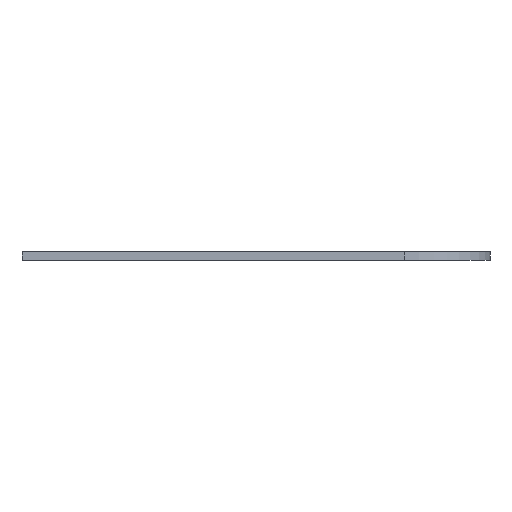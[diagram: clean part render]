
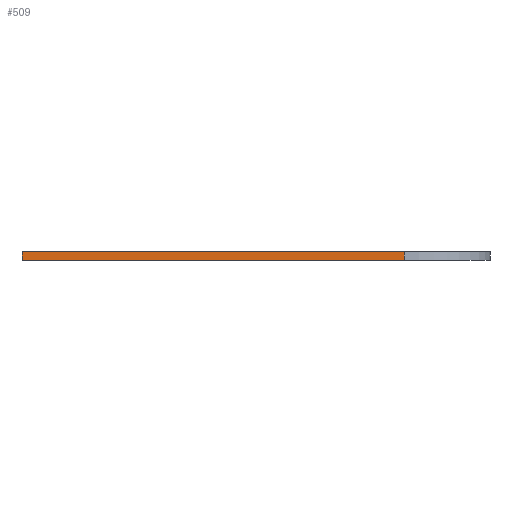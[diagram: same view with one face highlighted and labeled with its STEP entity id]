
A CAD part, front view. The second image highlights one B-rep face of the part: STEP entity #509.
In plain terms, the highlighted planar face has unit normal (0, -1, 0).
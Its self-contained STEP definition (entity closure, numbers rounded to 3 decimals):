
#56 = ORIENTED_EDGE ( 'NONE', *, *, #423, .T. ) ;
#94 = AXIS2_PLACEMENT_3D ( 'NONE', #831, #97, #899 ) ;
#97 = DIRECTION ( 'NONE',  ( 0., -1., 0. ) ) ;
#109 = CARTESIAN_POINT ( 'NONE',  ( 29.9, -26.9, -9.5 ) ) ;
#246 = LINE ( 'NONE', #1072, #823 ) ;
#282 = VERTEX_POINT ( 'NONE', #299 ) ;
#294 = LINE ( 'NONE', #589, #664 ) ;
#299 = CARTESIAN_POINT ( 'NONE',  ( 7.6, -26.9, 0.5 ) ) ;
#303 = VECTOR ( 'NONE', #962, 1000. ) ;
#316 = DIRECTION ( 'NONE',  ( 1., 0., 0. ) ) ;
#340 = EDGE_CURVE ( 'NONE', #620, #543, #929, .T. ) ;
#423 = EDGE_CURVE ( 'NONE', #908, #620, #246, .T. ) ;
#437 = LINE ( 'NONE', #801, #303 ) ;
#449 = EDGE_CURVE ( 'NONE', #908, #282, #437, .T. ) ;
#459 = CARTESIAN_POINT ( 'NONE',  ( 29.9, -26.9, 0.5 ) ) ;
#509 = ADVANCED_FACE ( 'NONE', ( #544 ), #714, .T. ) ;
#510 = DIRECTION ( 'NONE',  ( 0., 0., 1. ) ) ;
#543 = VERTEX_POINT ( 'NONE', #459 ) ;
#544 = FACE_OUTER_BOUND ( 'NONE', #1076, .T. ) ;
#589 = CARTESIAN_POINT ( 'NONE',  ( 0., -26.9, 0.5 ) ) ;
#620 = VERTEX_POINT ( 'NONE', #674 ) ;
#664 = VECTOR ( 'NONE', #779, 1000. ) ;
#674 = CARTESIAN_POINT ( 'NONE',  ( 29.9, -26.9, 0. ) ) ;
#700 = ORIENTED_EDGE ( 'NONE', *, *, #449, .F. ) ;
#714 = PLANE ( 'NONE',  #94 ) ;
#779 = DIRECTION ( 'NONE',  ( 1., 0., 0. ) ) ;
#801 = CARTESIAN_POINT ( 'NONE',  ( 7.6, -26.9, -9.5 ) ) ;
#823 = VECTOR ( 'NONE', #316, 1000. ) ;
#831 = CARTESIAN_POINT ( 'NONE',  ( 0., -26.9, -9.5 ) ) ;
#899 = DIRECTION ( 'NONE',  ( 1., 0., 0. ) ) ;
#908 = VERTEX_POINT ( 'NONE', #1044 ) ;
#929 = LINE ( 'NONE', #109, #974 ) ;
#962 = DIRECTION ( 'NONE',  ( 0., 0., 1. ) ) ;
#974 = VECTOR ( 'NONE', #510, 1000. ) ;
#982 = EDGE_CURVE ( 'NONE', #282, #543, #294, .T. ) ;
#1044 = CARTESIAN_POINT ( 'NONE',  ( 7.6, -26.9, 0. ) ) ;
#1070 = ORIENTED_EDGE ( 'NONE', *, *, #982, .F. ) ;
#1072 = CARTESIAN_POINT ( 'NONE',  ( 0., -26.9, 0. ) ) ;
#1076 = EDGE_LOOP ( 'NONE', ( #1070, #700, #56, #1149 ) ) ;
#1149 = ORIENTED_EDGE ( 'NONE', *, *, #340, .T. ) ;
